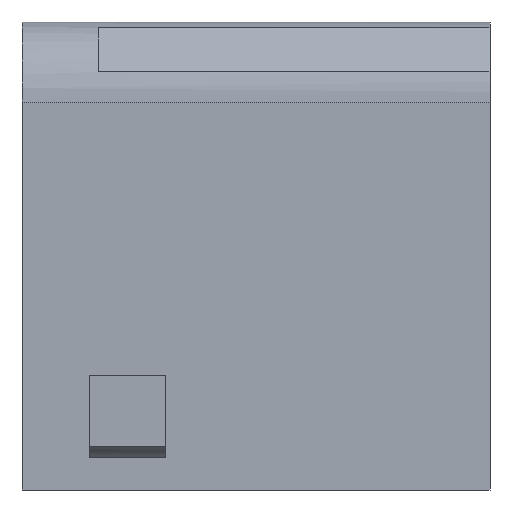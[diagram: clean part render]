
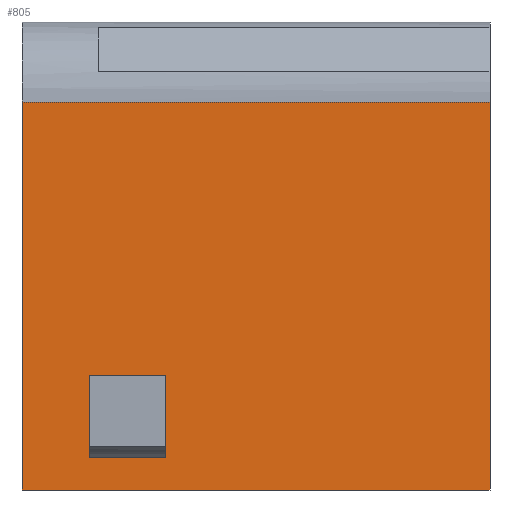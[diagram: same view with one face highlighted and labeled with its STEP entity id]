
A CAD part, front view. The second image highlights one B-rep face of the part: STEP entity #805.
In plain terms, the highlighted planar face has unit normal (0, -1, 0).
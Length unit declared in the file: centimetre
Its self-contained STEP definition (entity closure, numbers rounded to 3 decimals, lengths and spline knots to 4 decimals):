
#2 = CARTESIAN_POINT ( 'NONE',  ( 0., 0., 828.8487 ) ) ;
#47 = DIRECTION ( 'NONE',  ( 1., 0., 0. ) ) ;
#48 = EDGE_CURVE ( 'NONE', #380, #369, #534, .T. ) ;
#52 = PLANE ( 'NONE',  #339 ) ;
#82 = CARTESIAN_POINT ( 'NONE',  ( 0., 0., 828.8487 ) ) ;
#92 = DIRECTION ( 'NONE',  ( 0., 0., -1. ) ) ;
#106 = VERTEX_POINT ( 'NONE', #82 ) ;
#113 = VECTOR ( 'NONE', #765, 100. ) ;
#114 = EDGE_CURVE ( 'NONE', #322, #577, #872, .T. ) ;
#120 = EDGE_CURVE ( 'NONE', #380, #106, #1149, .T. ) ;
#150 = FACE_BOUND ( 'NONE', #361, .T. ) ;
#230 = CARTESIAN_POINT ( 'NONE',  ( 0., 0., 1000. ) ) ;
#248 = VECTOR ( 'NONE', #624, 100. ) ;
#271 = LINE ( 'NONE', #446, #537 ) ;
#295 = ORIENTED_EDGE ( 'NONE', *, *, #114, .F. ) ;
#298 = LINE ( 'NONE', #423, #372 ) ;
#311 = VERTEX_POINT ( 'NONE', #552 ) ;
#322 = VERTEX_POINT ( 'NONE', #388 ) ;
#325 = EDGE_CURVE ( 'NONE', #577, #392, #298, .T. ) ;
#339 = AXIS2_PLACEMENT_3D ( 'NONE', #230, #507, #931 ) ;
#361 = EDGE_LOOP ( 'NONE', ( #1046, #295, #849, #554 ) ) ;
#369 = VERTEX_POINT ( 'NONE', #1109 ) ;
#372 = VECTOR ( 'NONE', #47, 100. ) ;
#380 = VERTEX_POINT ( 'NONE', #939 ) ;
#388 = CARTESIAN_POINT ( 'NONE',  ( 143.4768, 0., 245.5484 ) ) ;
#392 = VERTEX_POINT ( 'NONE', #773 ) ;
#423 = CARTESIAN_POINT ( 'NONE',  ( 143.4768, 0., 69.1123 ) ) ;
#434 = DIRECTION ( 'NONE',  ( 1., 0., 0. ) ) ;
#446 = CARTESIAN_POINT ( 'NONE',  ( 306.9544, 0., 69.1123 ) ) ;
#454 = EDGE_CURVE ( 'NONE', #392, #311, #271, .T. ) ;
#471 = EDGE_CURVE ( 'NONE', #733, #369, #530, .T. ) ;
#507 = DIRECTION ( 'NONE',  ( 0., 1., 0. ) ) ;
#527 = DIRECTION ( 'NONE',  ( -1., 0., 0. ) ) ;
#530 = LINE ( 'NONE', #876, #1044 ) ;
#534 = LINE ( 'NONE', #877, #248 ) ;
#537 = VECTOR ( 'NONE', #623, 100. ) ;
#552 = CARTESIAN_POINT ( 'NONE',  ( 306.9544, 0., 245.5484 ) ) ;
#554 = ORIENTED_EDGE ( 'NONE', *, *, #454, .F. ) ;
#559 = VECTOR ( 'NONE', #527, 100. ) ;
#577 = VERTEX_POINT ( 'NONE', #791 ) ;
#623 = DIRECTION ( 'NONE',  ( 0., 0., 1. ) ) ;
#624 = DIRECTION ( 'NONE',  ( 0., 0., -1. ) ) ;
#655 = VECTOR ( 'NONE', #929, 100. ) ;
#685 = ORIENTED_EDGE ( 'NONE', *, *, #471, .T. ) ;
#733 = VERTEX_POINT ( 'NONE', #938 ) ;
#744 = ORIENTED_EDGE ( 'NONE', *, *, #120, .T. ) ;
#748 = VECTOR ( 'NONE', #92, 100. ) ;
#762 = LINE ( 'NONE', #1111, #655 ) ;
#765 = DIRECTION ( 'NONE',  ( 0., 0., -1. ) ) ;
#773 = CARTESIAN_POINT ( 'NONE',  ( 306.9544, 0., 69.1123 ) ) ;
#776 = LINE ( 'NONE', #1128, #113 ) ;
#791 = CARTESIAN_POINT ( 'NONE',  ( 143.4768, 0., 69.1123 ) ) ;
#805 = ADVANCED_FACE ( 'NONE', ( #150, #943 ), #52, .F. ) ;
#849 = ORIENTED_EDGE ( 'NONE', *, *, #1056, .F. ) ;
#855 = EDGE_CURVE ( 'NONE', #106, #733, #776, .T. ) ;
#872 = LINE ( 'NONE', #963, #748 ) ;
#876 = CARTESIAN_POINT ( 'NONE',  ( 0., 0., 0. ) ) ;
#877 = CARTESIAN_POINT ( 'NONE',  ( 1000., 0., 1000. ) ) ;
#925 = EDGE_LOOP ( 'NONE', ( #1001, #744, #1104, #685 ) ) ;
#929 = DIRECTION ( 'NONE',  ( -1., 0., 0. ) ) ;
#931 = DIRECTION ( 'NONE',  ( 0., 0., 1. ) ) ;
#938 = CARTESIAN_POINT ( 'NONE',  ( 0., 0., 0. ) ) ;
#939 = CARTESIAN_POINT ( 'NONE',  ( 1000., 0., 828.8487 ) ) ;
#943 = FACE_OUTER_BOUND ( 'NONE', #925, .T. ) ;
#963 = CARTESIAN_POINT ( 'NONE',  ( 143.4768, 0., 69.1123 ) ) ;
#1001 = ORIENTED_EDGE ( 'NONE', *, *, #48, .F. ) ;
#1044 = VECTOR ( 'NONE', #434, 100. ) ;
#1046 = ORIENTED_EDGE ( 'NONE', *, *, #325, .F. ) ;
#1056 = EDGE_CURVE ( 'NONE', #311, #322, #762, .T. ) ;
#1104 = ORIENTED_EDGE ( 'NONE', *, *, #855, .T. ) ;
#1109 = CARTESIAN_POINT ( 'NONE',  ( 1000., 0., 0. ) ) ;
#1111 = CARTESIAN_POINT ( 'NONE',  ( 143.4768, 0., 245.5484 ) ) ;
#1128 = CARTESIAN_POINT ( 'NONE',  ( 0., 0., 1000. ) ) ;
#1149 = LINE ( 'NONE', #2, #559 ) ;
